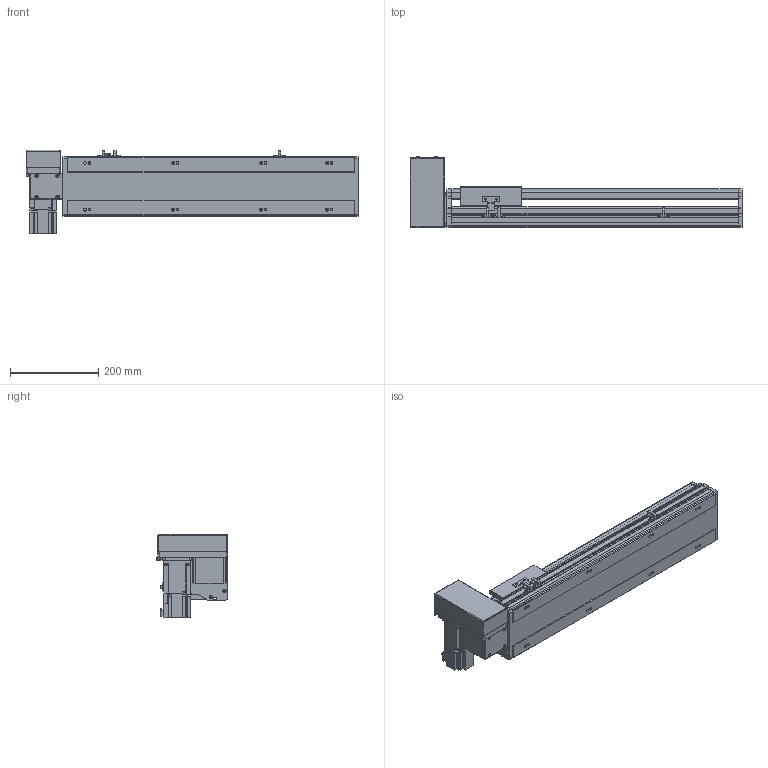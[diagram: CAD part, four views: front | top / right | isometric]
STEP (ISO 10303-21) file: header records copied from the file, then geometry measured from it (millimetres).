
FILE_DESCRIPTION(/* description */ ('STEP AP214'),/* implementation_level */ '2;1');
FILE_NAME(/* name */ 'PBS140S-P40-S400-RU-T40-C1-N(0)',/* time_stamp */ '2022-06-09T02:53:58+02:00',/* author */ ('License CC BY-ND 4.0'),/* organization */ ('CADENAS'),/* preprocessor_version */ 'ST-DEVELOPER v18.102',/* originating_system */ 'PARTsolutions',/* authorisation */ ' ');
FILE_SCHEMA (('AUTOMOTIVE_DESIGN {1 0 10303 214 3 1 1}'));
Length unit declared in the file: millimetre
Products named in the file (7): PBS140S-P40-S400-RU-T40-C1-N(0); PBS140S_sensor; PBS140S_plant; PBS140S_sliser; T40-p1; PBS140ST-RU_motors; PBS140S-S400()_body
Assembly tree (8 placements, depth 2):
  PBS140S-P40-S400-RU-T40-C1-N(0)
    PBS140S_sensor  x3
    PBS140S_plant
    PBS140S_sliser
    T40-p1
    PBS140ST-RU_motors
    PBS140S-S400()_body
Bounding box: 754 x 162.5 x 189.7 mm (x, y, z)
Volume: 4307726.8 mm3; surface area: 771795.5 mm2
Topology: 8 solids, 8 shells, 1035 faces, 2751 edges, 1801 vertices
Faces by surface type: plane 678, cylinder 313, cone 34, sphere 8, torus 2
Full cylindrical faces by diameter (mm): 3.242 x4, 4 x2, 4.134 x4, 4.4 x8, 4.5 x2, 4.8 x4, 4.917 x16, 5.5 x7, 6 x2, 7 x10, 7.5 x8, 8 x12, 8.5 x4, 10.5 x8, 14 x1, 30 x2, 50 x2
Entity records: 29664 total; most frequent: CARTESIAN_POINT 5368, DIRECTION 5068, ORIENTED_EDGE 4822, EDGE_CURVE 2411, AXIS2_PLACEMENT_3D 1739, VERTEX_POINT 1657, LINE 1590, VECTOR 1590
